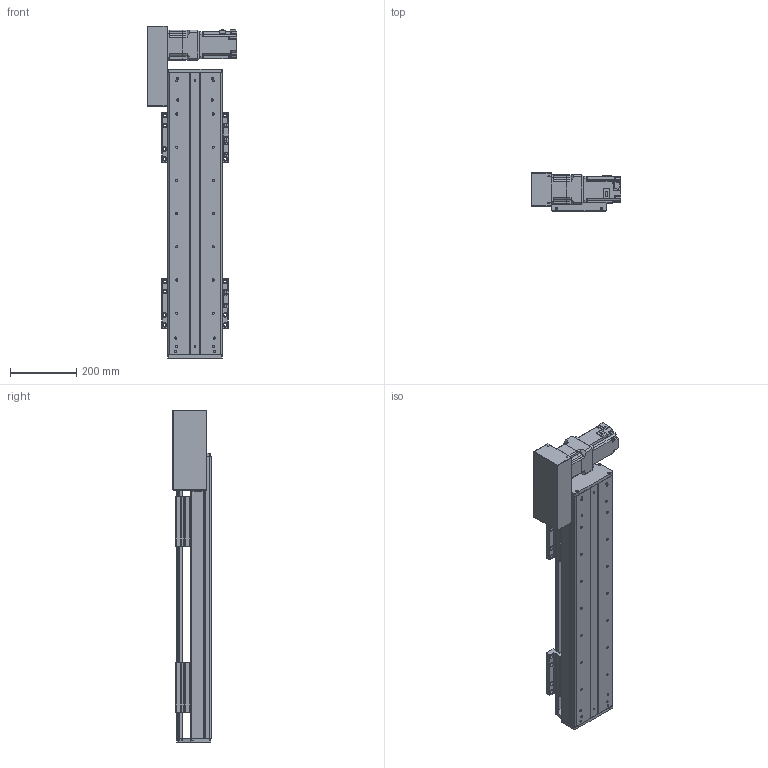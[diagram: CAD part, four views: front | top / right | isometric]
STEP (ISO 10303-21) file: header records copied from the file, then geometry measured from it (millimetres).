
FILE_DESCRIPTION(/* description */ (''),/* implementation_level */ '2;1');
FILE_NAME(/* name */ 'C:\Users\PC\Desktop\3D도면\STEP\DSB165-L7G-W0500-R.stp',/* time_stamp */ '2018-06-25T14:27:14+09:00',/* author */ ('PC'),/* organization */ (''),/* preprocessor_version */ 'ST-DEVELOPER v16.5',/* originating_system */ 'Autodesk Inventor 2017',/* authorisation */ '');
FILE_SCHEMA (('AUTOMOTIVE_DESIGN { 1 0 10303 214 3 1 1 }'));
Length unit declared in the file: millimetre
Products named in the file (12): DSB165-L; DSR165-BASE_S; hg-kr73_; ab0901-p0401300102; 11-DBS165 BELT COVER; DBS165-COVER; DBS165-COVER_1; DBS165-UP COVER; DBS165-TABLE(MSA20S); DSR126-SENSOR DOG; pm-y65_step; SENSOR BRACKET(EE-SX674A)
Assembly tree (16 placements, depth 2):
  DSB165-L
    DSR165-BASE_S
    hg-kr73_
    ab0901-p0401300102
    11-DBS165 BELT COVER
    DBS165-COVER
    DBS165-COVER_1
    DBS165-UP COVER
    DBS165-TABLE(MSA20S)  x2
    DSR126-SENSOR DOG
    pm-y65_step  x3
    SENSOR BRACKET(EE-SX674A)  x3
Bounding box: 270 x 115 x 1000 mm (x, y, z)
Volume: 6581578.7 mm3; surface area: 1511567.1 mm2
Topology: 17 solids, 22 shells, 1659 faces, 4457 edges, 2942 vertices
Faces by surface type: plane 926, cylinder 615, cone 106, sphere 8, torus 4
Full cylindrical faces by diameter (mm): 2.459 x20, 3.5 x6, 4.134 x42, 4.5 x18, 5 x27, 5.5 x36, 5.9 x4, 6 x8, 6.6 x14, 6.647 x34, 6.8 x1, 7 x4, 7.6 x4, 8 x1, 8.4 x1, 8.5 x24, 8.7 x1, 9.5 x32, 11 x6, 14 x16, 19 x1, 22 x1, 24 x1, 25 x1, 28 x1, 67 x1, 70 x2, 80 x1
Entity records: 35309 total; most frequent: DIRECTION 6236, CARTESIAN_POINT 6055, ORIENTED_EDGE 5518, EDGE_CURVE 2764, AXIS2_PLACEMENT_3D 2288, VERTEX_POINT 1969, EDGE_LOOP 1715, LINE 1660
